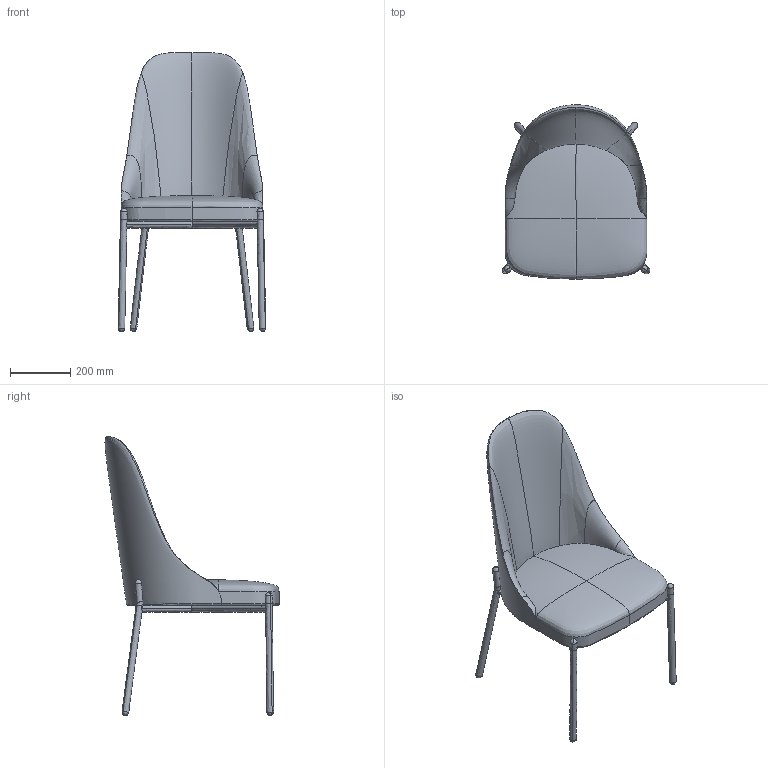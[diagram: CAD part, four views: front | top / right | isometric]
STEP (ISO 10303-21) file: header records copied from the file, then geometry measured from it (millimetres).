
FILE_DESCRIPTION(/* description */ (''),/* implementation_level */ '2;1');
FILE_NAME(/* name */ 'KINOSH~1',/* time_stamp */ '2024-05-29T19:00:22+09:00',/* author */ (''),/* organization */ (''),/* preprocessor_version */ 'ST-DEVELOPER v16.5',/* originating_system */ '',/* authorisation */ '');
FILE_SCHEMA (('AUTOMOTIVE_DESIGN'));
Length unit declared in the file: millimetre
Products named in the file (1): Document
Bounding box: 489.94 x 577.18 x 925 mm (x, y, z)
Volume: 1089149.8 mm3; surface area: 1189048.1 mm2
Topology: 1 solids, 2 shells, 87 faces, 230 edges, 133 vertices
Faces by surface type: bspline 66, plane 21
Entity records: 82371 total; most frequent: CARTESIAN_POINT 81105, ORIENTED_EDGE 424, EDGE_CURVE 214, VERTEX_POINT 133, B_SPLINE_CURVE_WITH_KNOTS 115, EDGE_LOOP 91, ADVANCED_FACE 87, FACE_OUTER_BOUND 87
